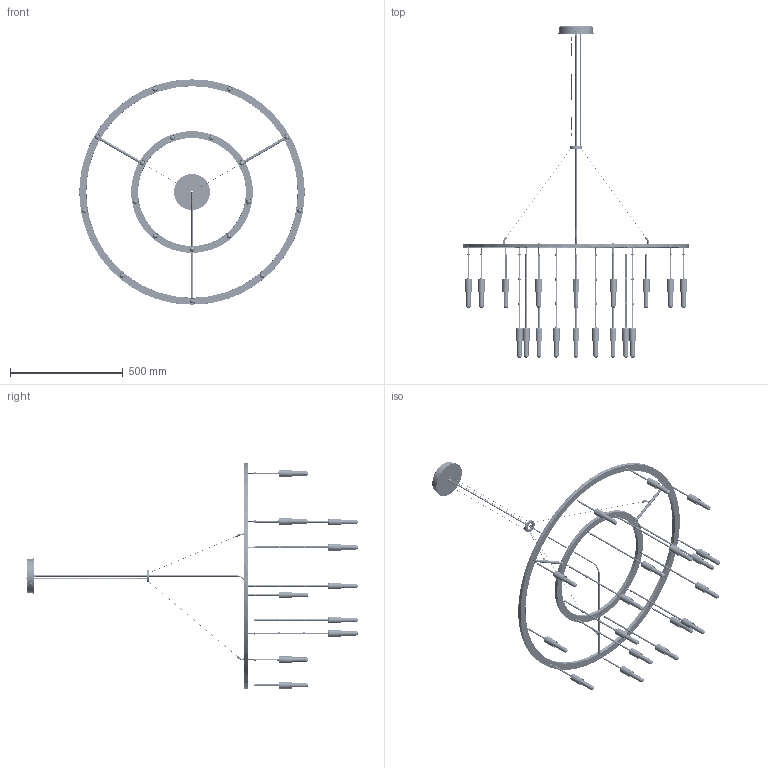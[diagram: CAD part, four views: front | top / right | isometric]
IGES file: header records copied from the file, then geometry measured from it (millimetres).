
Start section: SolidWorks IGES file using NURBS representation for surfaces
Global section: file name: C:\Users\maria.romani.SANTACOLE\Desktop\VAGHE STELLE\3D\Vaghe Stelle_3D.IGS; native system: SolidWorks 2015; preprocessor: SolidWorks 2015; author: maria.romani; date: 160629.112718; units: millimetre
Bounding box: 1000 x 1473.63 x 1000 mm (x, y, z)
Surface area: 1507149.5 mm2 (no closed solid volume)
Topology: 0 solids, 0 shells, 6923 faces, 74091 edges, 73911 vertices
Faces by surface type: bspline 6923
